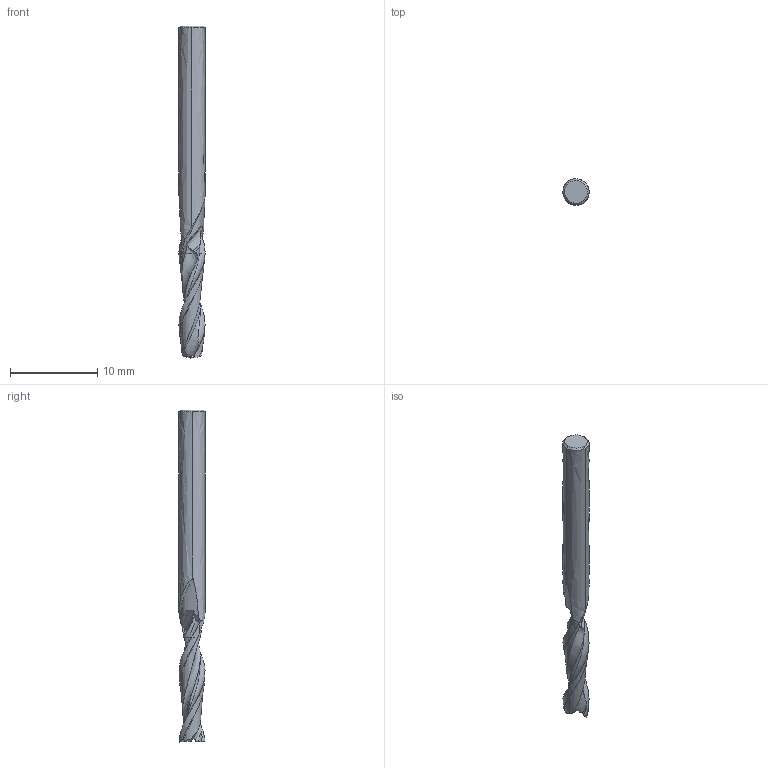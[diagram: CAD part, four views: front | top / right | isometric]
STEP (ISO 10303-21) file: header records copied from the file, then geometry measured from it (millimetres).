
FILE_DESCRIPTION(('CATIA V5 STEP','CAx-IF Rec.Pracs.--- Model Styling and Organization---1.2---2011-12-15'),'2;1');
FILE_NAME('I:\isr\design\admin8\users\weaam_s\5667674-D-M.stp','2018-03-15T10:05:54+00:00',('none'),('none'),'CATIA Version 5 Release 21 SP 5 (IN-10)','CATIA V5 STEP AP214','none');
FILE_SCHEMA(('AUTOMOTIVE_DESIGN { 1 0 10303 214 1 1 1 1 }'));
Length unit declared in the file: millimetre
Products named in the file (1): EC-A2 03-12C03E38
Bounding box: 3 x 3 x 38 mm (x, y, z)
Volume: 207.9 mm3; surface area: 357.8 mm2
Topology: 2 solids, 2 shells, 67 faces, 190 edges, 129 vertices
Faces by surface type: bspline 51, extrusion 10, plane 6
Entity records: 24917 total; most frequent: CARTESIAN_POINT 23545, ORIENTED_EDGE 374, EDGE_CURVE 187, B_SPLINE_CURVE_WITH_KNOTS 185, VERTEX_POINT 124, ADVANCED_FACE 67, OVER_RIDING_STYLED_ITEM 67, EDGE_LOOP 67
